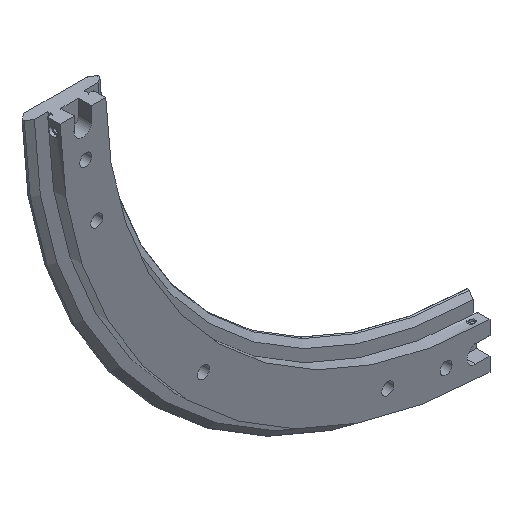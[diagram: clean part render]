
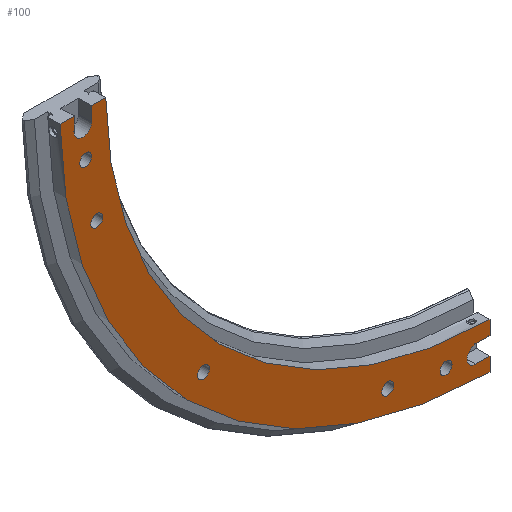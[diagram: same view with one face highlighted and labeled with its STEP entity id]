
A CAD part, isometric view. The second image highlights one B-rep face of the part: STEP entity #100.
In plain terms, the highlighted planar face has unit normal (0, -1, 0).
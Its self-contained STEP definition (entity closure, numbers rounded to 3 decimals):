
#100 = ADVANCED_FACE( '', ( #209, #210, #211, #212, #213, #214 ), #215, .T. );
#209 = FACE_BOUND( '', #398, .T. );
#210 = FACE_BOUND( '', #399, .T. );
#211 = FACE_BOUND( '', #400, .T. );
#212 = FACE_BOUND( '', #401, .T. );
#213 = FACE_BOUND( '', #402, .T. );
#214 = FACE_OUTER_BOUND( '', #403, .T. );
#215 = PLANE( '', #404 );
#398 = EDGE_LOOP( '', ( #726 ) );
#399 = EDGE_LOOP( '', ( #727 ) );
#400 = EDGE_LOOP( '', ( #728 ) );
#401 = EDGE_LOOP( '', ( #729 ) );
#402 = EDGE_LOOP( '', ( #730 ) );
#403 = EDGE_LOOP( '', ( #731, #732, #733, #734, #735, #736, #737, #738, #739, #740, #741, #742 ) );
#404 = AXIS2_PLACEMENT_3D( '', #743, #744, #745 );
#726 = ORIENTED_EDGE( '', *, *, #1196, .F. );
#727 = ORIENTED_EDGE( '', *, *, #1197, .F. );
#728 = ORIENTED_EDGE( '', *, *, #1198, .F. );
#729 = ORIENTED_EDGE( '', *, *, #1172, .F. );
#730 = ORIENTED_EDGE( '', *, *, #1176, .F. );
#731 = ORIENTED_EDGE( '', *, *, #1157, .T. );
#732 = ORIENTED_EDGE( '', *, *, #1162, .T. );
#733 = ORIENTED_EDGE( '', *, *, #1180, .T. );
#734 = ORIENTED_EDGE( '', *, *, #1199, .T. );
#735 = ORIENTED_EDGE( '', *, *, #1112, .T. );
#736 = ORIENTED_EDGE( '', *, *, #1171, .T. );
#737 = ORIENTED_EDGE( '', *, *, #1169, .T. );
#738 = ORIENTED_EDGE( '', *, *, #1167, .T. );
#739 = ORIENTED_EDGE( '', *, *, #1128, .T. );
#740 = ORIENTED_EDGE( '', *, *, #1200, .F. );
#741 = ORIENTED_EDGE( '', *, *, #1181, .T. );
#742 = ORIENTED_EDGE( '', *, *, #1160, .T. );
#743 = CARTESIAN_POINT( '', ( -221., 0., 0. ) );
#744 = DIRECTION( '', ( 0., -1., 0. ) );
#745 = DIRECTION( '', ( 0., 0., -1. ) );
#1112 = EDGE_CURVE( '', #1289, #1287, #1290, .T. );
#1128 = EDGE_CURVE( '', #1321, #1319, #1322, .T. );
#1157 = EDGE_CURVE( '', #1371, #1372, #1373, .T. );
#1160 = EDGE_CURVE( '', #1376, #1371, #1377, .T. );
#1162 = EDGE_CURVE( '', #1372, #1379, #1380, .T. );
#1167 = EDGE_CURVE( '', #1387, #1321, #1388, .T. );
#1169 = EDGE_CURVE( '', #1390, #1387, #1391, .T. );
#1171 = EDGE_CURVE( '', #1287, #1390, #1393, .T. );
#1172 = EDGE_CURVE( '', #1394, #1394, #1395, .T. );
#1176 = EDGE_CURVE( '', #1402, #1402, #1403, .T. );
#1180 = EDGE_CURVE( '', #1379, #1410, #1411, .T. );
#1181 = EDGE_CURVE( '', #1412, #1376, #1413, .T. );
#1196 = EDGE_CURVE( '', #1440, #1440, #1441, .T. );
#1197 = EDGE_CURVE( '', #1442, #1442, #1443, .T. );
#1198 = EDGE_CURVE( '', #1444, #1444, #1445, .T. );
#1199 = EDGE_CURVE( '', #1410, #1289, #1446, .T. );
#1200 = EDGE_CURVE( '', #1412, #1319, #1447, .T. );
#1287 = VERTEX_POINT( '', #1586 );
#1289 = VERTEX_POINT( '', #1589 );
#1290 = LINE( '', #1590, #1591 );
#1319 = VERTEX_POINT( '', #1658 );
#1321 = VERTEX_POINT( '', #1661 );
#1322 = LINE( '', #1662, #1663 );
#1371 = VERTEX_POINT( '', #1750 );
#1372 = VERTEX_POINT( '', #1751 );
#1373 = CIRCLE( '', #1752, 5. );
#1376 = VERTEX_POINT( '', #1757 );
#1377 = LINE( '', #1758, #1759 );
#1379 = VERTEX_POINT( '', #1762 );
#1380 = LINE( '', #1763, #1764 );
#1387 = VERTEX_POINT( '', #1774 );
#1388 = LINE( '', #1775, #1776 );
#1390 = VERTEX_POINT( '', #1779 );
#1391 = CIRCLE( '', #1780, 5. );
#1393 = LINE( '', #1783, #1784 );
#1394 = VERTEX_POINT( '', #1785 );
#1395 = CIRCLE( '', #1786, 3.4 );
#1402 = VERTEX_POINT( '', #1793 );
#1403 = CIRCLE( '', #1794, 3.4 );
#1410 = VERTEX_POINT( '', #1801 );
#1411 = LINE( '', #1802, #1803 );
#1412 = VERTEX_POINT( '', #1804 );
#1413 = LINE( '', #1805, #1806 );
#1440 = VERTEX_POINT( '', #1869 );
#1441 = CIRCLE( '', #1870, 3.4 );
#1442 = VERTEX_POINT( '', #1871 );
#1443 = CIRCLE( '', #1872, 3.4 );
#1444 = VERTEX_POINT( '', #1873 );
#1445 = CIRCLE( '', #1874, 3.4 );
#1446 = CIRCLE( '', #1875, 247. );
#1447 = CIRCLE( '', #1876, 221. );
#1586 = CARTESIAN_POINT( '', ( -2.5, 0., -239. ) );
#1589 = CARTESIAN_POINT( '', ( -2.5, 0., -246.987 ) );
#1590 = CARTESIAN_POINT( '', ( -2.5, 0., -256.37 ) );
#1591 = VECTOR( '', #2204, 1000. );
#1658 = CARTESIAN_POINT( '', ( -2.5, 0., -220.986 ) );
#1661 = CARTESIAN_POINT( '', ( -2.5, 0., -229. ) );
#1662 = CARTESIAN_POINT( '', ( -2.5, 0., -256.37 ) );
#1663 = VECTOR( '', #2214, 1000. );
#1750 = CARTESIAN_POINT( '', ( -229., 0., -10.5 ) );
#1751 = CARTESIAN_POINT( '', ( -239., 0., -10.5 ) );
#1752 = AXIS2_PLACEMENT_3D( '', #2257, #2258, #2259 );
#1757 = CARTESIAN_POINT( '', ( -229., 0., -2.5 ) );
#1758 = CARTESIAN_POINT( '', ( -229., 0., 0. ) );
#1759 = VECTOR( '', #2262, 1000. );
#1762 = CARTESIAN_POINT( '', ( -239., 0., -2.5 ) );
#1763 = CARTESIAN_POINT( '', ( -239., 0., -10.5 ) );
#1764 = VECTOR( '', #2264, 1000. );
#1774 = CARTESIAN_POINT( '', ( -10.5, 0., -229. ) );
#1775 = CARTESIAN_POINT( '', ( -10.5, 0., -229. ) );
#1776 = VECTOR( '', #2271, 1000. );
#1779 = CARTESIAN_POINT( '', ( -10.5, 0., -239. ) );
#1780 = AXIS2_PLACEMENT_3D( '', #2273, #2274, #2275 );
#1783 = CARTESIAN_POINT( '', ( 0., 0., -239. ) );
#1784 = VECTOR( '', #2277, 1000. );
#1785 = CARTESIAN_POINT( '', ( -226.027, 0., -63.964 ) );
#1786 = AXIS2_PLACEMENT_3D( '', #2278, #2279, #2280 );
#1793 = CARTESIAN_POINT( '', ( -60.564, 0., -229.427 ) );
#1794 = AXIS2_PLACEMENT_3D( '', #2290, #2291, #2292 );
#1801 = CARTESIAN_POINT( '', ( -246.987, 0., -2.5 ) );
#1802 = CARTESIAN_POINT( '', ( -2.5, 0., -2.5 ) );
#1803 = VECTOR( '', #2302, 1000. );
#1804 = CARTESIAN_POINT( '', ( -220.986, 0., -2.5 ) );
#1805 = CARTESIAN_POINT( '', ( -2.5, 0., -2.5 ) );
#1806 = VECTOR( '', #2303, 1000. );
#1869 = CARTESIAN_POINT( '', ( -232.378, 0., -30.904 ) );
#1870 = AXIS2_PLACEMENT_3D( '', #2313, #2314, #2315 );
#1871 = CARTESIAN_POINT( '', ( -27.504, 0., -235.778 ) );
#1872 = AXIS2_PLACEMENT_3D( '', #2316, #2317, #2318 );
#1873 = CARTESIAN_POINT( '', ( -165.463, 0., -168.863 ) );
#1874 = AXIS2_PLACEMENT_3D( '', #2319, #2320, #2321 );
#1875 = AXIS2_PLACEMENT_3D( '', #2322, #2323, #2324 );
#1876 = AXIS2_PLACEMENT_3D( '', #2325, #2326, #2327 );
#2204 = DIRECTION( '', ( 0., 0., 1. ) );
#2214 = DIRECTION( '', ( 0., 0., 1. ) );
#2257 = CARTESIAN_POINT( '', ( -234., 0., -10.5 ) );
#2258 = DIRECTION( '', ( 0., 1., 0. ) );
#2259 = DIRECTION( '', ( 1., 0., 0. ) );
#2262 = DIRECTION( '', ( 0., 0., -1. ) );
#2264 = DIRECTION( '', ( 0., 0., 1. ) );
#2271 = DIRECTION( '', ( 1., 0., 0. ) );
#2273 = CARTESIAN_POINT( '', ( -10.5, 0., -234. ) );
#2274 = DIRECTION( '', ( 0., 1., 0. ) );
#2275 = DIRECTION( '', ( 1., 0., 0. ) );
#2277 = DIRECTION( '', ( -1., 0., 0. ) );
#2278 = CARTESIAN_POINT( '', ( -226.027, 0., -60.564 ) );
#2279 = DIRECTION( '', ( 0., -1., 0. ) );
#2280 = DIRECTION( '', ( 0., 0., -1. ) );
#2290 = CARTESIAN_POINT( '', ( -60.564, 0., -226.027 ) );
#2291 = DIRECTION( '', ( 0., -1., 0. ) );
#2292 = DIRECTION( '', ( 0., 0., -1. ) );
#2302 = DIRECTION( '', ( -1., 0., 0. ) );
#2303 = DIRECTION( '', ( -1., 0., 0. ) );
#2313 = CARTESIAN_POINT( '', ( -232.378, 0., -27.504 ) );
#2314 = DIRECTION( '', ( 0., -1., 0. ) );
#2315 = DIRECTION( '', ( 0., 0., -1. ) );
#2316 = CARTESIAN_POINT( '', ( -27.504, 0., -232.378 ) );
#2317 = DIRECTION( '', ( 0., -1., 0. ) );
#2318 = DIRECTION( '', ( 0., 0., -1. ) );
#2319 = CARTESIAN_POINT( '', ( -165.463, 0., -165.463 ) );
#2320 = DIRECTION( '', ( 0., -1., 0. ) );
#2321 = DIRECTION( '', ( 0., 0., -1. ) );
#2322 = CARTESIAN_POINT( '', ( 0., 0., 0. ) );
#2323 = DIRECTION( '', ( 0., -1., 0. ) );
#2324 = DIRECTION( '', ( 0., 0., -1. ) );
#2325 = CARTESIAN_POINT( '', ( 0., 0., 0. ) );
#2326 = DIRECTION( '', ( 0., -1., 0. ) );
#2327 = DIRECTION( '', ( 0., 0., -1. ) );
